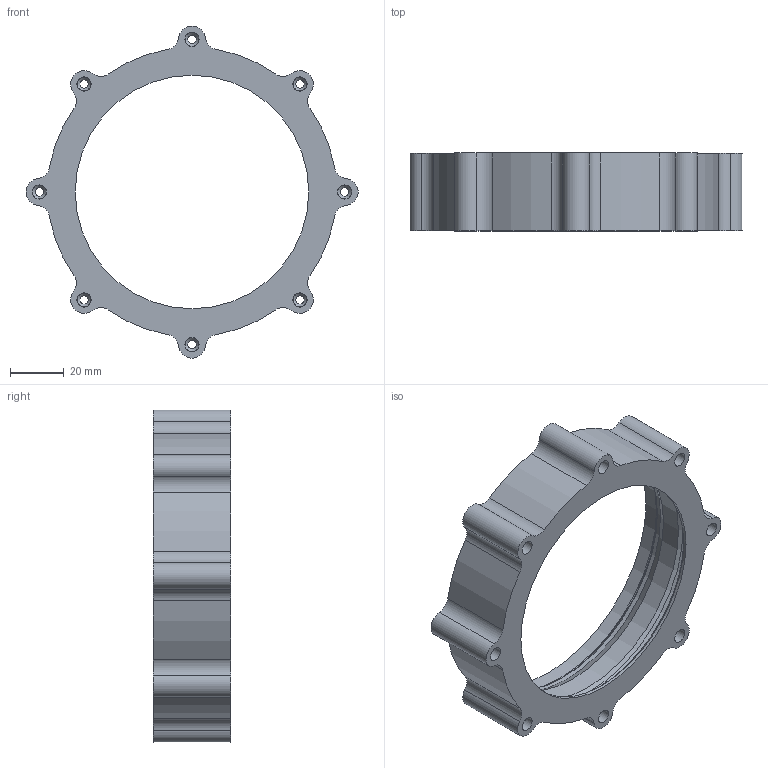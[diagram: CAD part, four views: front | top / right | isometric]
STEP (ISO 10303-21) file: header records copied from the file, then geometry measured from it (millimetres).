
FILE_DESCRIPTION(/* description */ (''),/* implementation_level */ '2;1');
FILE_NAME(/* name */ 'X:\Develop\CAD\NakataOmni\DriveUnitR3\LowerCase.stp',/* time_stamp */ '2024-05-26T23:39:34+09:00',/* author */ ('kumagai'),/* organization */ (''),/* preprocessor_version */ 'ST-DEVELOPER v19',/* originating_system */ 'Autodesk Inventor 2023',/* authorisation */ '');
FILE_SCHEMA (('AUTOMOTIVE_DESIGN { 1 0 10303 214 3 1 1 }'));
Length unit declared in the file: millimetre
Products named in the file (1): LowerCase
Bounding box: 123.96 x 29 x 123.96 mm (x, y, z)
Volume: 60049.3 mm3; surface area: 31216.1 mm2
Topology: 1 solids, 1 shells, 77 faces, 184 edges, 118 vertices
Faces by surface type: cylinder 53, cone 12, plane 11, torus 1
Full cylindrical faces by diameter (mm): 3.2 x8, 5.3 x8, 87.2 x1, 96 x1, 100 x1, 102 x1, 103 x1
Entity records: 2364 total; most frequent: DIRECTION 459, CARTESIAN_POINT 380, ORIENTED_EDGE 368, AXIS2_PLACEMENT_3D 197, EDGE_CURVE 184, CIRCLE 119, VERTEX_POINT 118, EDGE_LOOP 104
